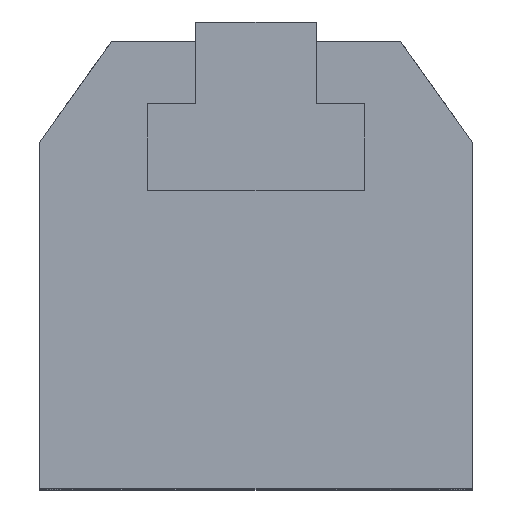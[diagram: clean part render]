
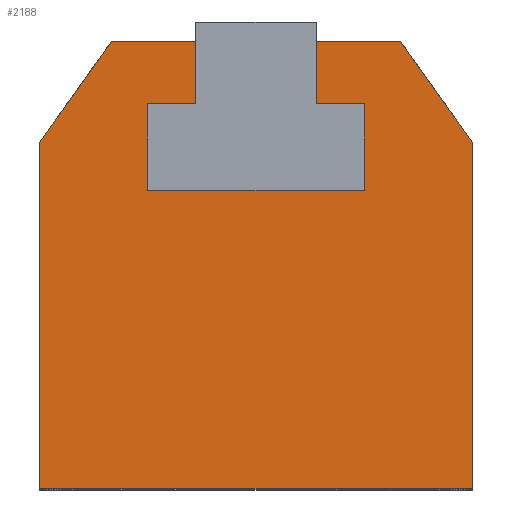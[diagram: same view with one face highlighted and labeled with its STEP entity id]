
A CAD part, top view. The second image highlights one B-rep face of the part: STEP entity #2188.
In plain terms, the highlighted planar face has unit normal (0, 0, 1).
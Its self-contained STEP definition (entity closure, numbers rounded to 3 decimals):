
#33 = VERTEX_POINT ( 'NONE', #6150 ) ;
#50 = ORIENTED_EDGE ( 'NONE', *, *, #4840, .T. ) ;
#123 = LINE ( 'NONE', #1263, #6079 ) ;
#187 = DIRECTION ( 'NONE',  ( 0., 1., 0. ) ) ;
#212 = VECTOR ( 'NONE', #5638, 1000. ) ;
#227 = EDGE_CURVE ( 'NONE', #3416, #3332, #4910, .T. ) ;
#308 = PLANE ( 'NONE',  #4165 ) ;
#397 = FACE_OUTER_BOUND ( 'NONE', #4043, .T. ) ;
#531 = VERTEX_POINT ( 'NONE', #864 ) ;
#573 = CARTESIAN_POINT ( 'NONE',  ( -12.5, 93., 84. ) ) ;
#798 = EDGE_CURVE ( 'NONE', #4283, #7418, #6645, .T. ) ;
#825 = VECTOR ( 'NONE', #6619, 1000. ) ;
#864 = CARTESIAN_POINT ( 'NONE',  ( -12.5, 80., 84. ) ) ;
#904 = EDGE_CURVE ( 'NONE', #4516, #2404, #123, .T. ) ;
#1061 = VECTOR ( 'NONE', #2550, 1000. ) ;
#1090 = VECTOR ( 'NONE', #5746, 1000. ) ;
#1093 = DIRECTION ( 'NONE',  ( -1., 0., 0. ) ) ;
#1099 = CARTESIAN_POINT ( 'NONE',  ( -45., 0., 84. ) ) ;
#1231 = EDGE_CURVE ( 'NONE', #2915, #7152, #7109, .T. ) ;
#1263 = CARTESIAN_POINT ( 'NONE',  ( 45., 72., 84. ) ) ;
#1351 = LINE ( 'NONE', #6640, #825 ) ;
#1552 = CARTESIAN_POINT ( 'NONE',  ( 30., 93., 84. ) ) ;
#1601 = DIRECTION ( 'NONE',  ( 0., 1., 0. ) ) ;
#1656 = ORIENTED_EDGE ( 'NONE', *, *, #798, .T. ) ;
#1673 = LINE ( 'NONE', #2964, #1846 ) ;
#1712 = LINE ( 'NONE', #2339, #6624 ) ;
#1825 = DIRECTION ( 'NONE',  ( -0.581, 0.814, 0. ) ) ;
#1846 = VECTOR ( 'NONE', #7135, 1000. ) ;
#1869 = DIRECTION ( 'NONE',  ( 1., 0., 0. ) ) ;
#1884 = CARTESIAN_POINT ( 'NONE',  ( 22.5, 62., 84. ) ) ;
#1904 = LINE ( 'NONE', #1552, #212 ) ;
#2118 = CARTESIAN_POINT ( 'NONE',  ( 12.5, 80., 84. ) ) ;
#2188 = ADVANCED_FACE ( 'NONE', ( #397 ), #308, .F. ) ;
#2230 = EDGE_CURVE ( 'NONE', #2404, #7152, #1904, .T. ) ;
#2313 = ORIENTED_EDGE ( 'NONE', *, *, #1231, .F. ) ;
#2339 = CARTESIAN_POINT ( 'NONE',  ( -30., 93., 84. ) ) ;
#2346 = EDGE_CURVE ( 'NONE', #3332, #6622, #7414, .T. ) ;
#2404 = VERTEX_POINT ( 'NONE', #5926 ) ;
#2550 = DIRECTION ( 'NONE',  ( 0., 1., 0. ) ) ;
#2752 = ORIENTED_EDGE ( 'NONE', *, *, #7050, .F. ) ;
#2784 = LINE ( 'NONE', #6267, #1090 ) ;
#2815 = CARTESIAN_POINT ( 'NONE',  ( 45., 0., 84. ) ) ;
#2915 = VERTEX_POINT ( 'NONE', #6620 ) ;
#2964 = CARTESIAN_POINT ( 'NONE',  ( -12.5, 80., 84. ) ) ;
#3035 = ORIENTED_EDGE ( 'NONE', *, *, #7178, .F. ) ;
#3160 = CARTESIAN_POINT ( 'NONE',  ( 12.5, 93., 84. ) ) ;
#3332 = VERTEX_POINT ( 'NONE', #4835 ) ;
#3356 = CARTESIAN_POINT ( 'NONE',  ( -45., 0., 84. ) ) ;
#3378 = VECTOR ( 'NONE', #4686, 1000. ) ;
#3416 = VERTEX_POINT ( 'NONE', #6823 ) ;
#3418 = VECTOR ( 'NONE', #187, 1000. ) ;
#3601 = CARTESIAN_POINT ( 'NONE',  ( -22.5, 62., 84. ) ) ;
#3749 = CARTESIAN_POINT ( 'NONE',  ( 22.5, 62., 84. ) ) ;
#3938 = VECTOR ( 'NONE', #4212, 1000. ) ;
#3942 = ORIENTED_EDGE ( 'NONE', *, *, #2230, .T. ) ;
#3955 = LINE ( 'NONE', #6840, #6697 ) ;
#4042 = ORIENTED_EDGE ( 'NONE', *, *, #5600, .F. ) ;
#4043 = EDGE_LOOP ( 'NONE', ( #3942, #2313, #5777, #3035, #5326, #4676, #2752, #4042, #4951, #50, #4328, #1656, #4055, #4308 ) ) ;
#4055 = ORIENTED_EDGE ( 'NONE', *, *, #5679, .T. ) ;
#4112 = DIRECTION ( 'NONE',  ( -0.581, -0.814, 0. ) ) ;
#4165 = AXIS2_PLACEMENT_3D ( 'NONE', #4341, #6256, #1093 ) ;
#4212 = DIRECTION ( 'NONE',  ( 0., -1., 0. ) ) ;
#4283 = VERTEX_POINT ( 'NONE', #1099 ) ;
#4308 = ORIENTED_EDGE ( 'NONE', *, *, #904, .T. ) ;
#4328 = ORIENTED_EDGE ( 'NONE', *, *, #7021, .T. ) ;
#4341 = CARTESIAN_POINT ( 'NONE',  ( 0., 0., 84. ) ) ;
#4516 = VERTEX_POINT ( 'NONE', #6277 ) ;
#4676 = ORIENTED_EDGE ( 'NONE', *, *, #227, .F. ) ;
#4686 = DIRECTION ( 'NONE',  ( 0., -1., 0. ) ) ;
#4726 = VECTOR ( 'NONE', #6356, 1000. ) ;
#4835 = CARTESIAN_POINT ( 'NONE',  ( -22.5, 62., 84. ) ) ;
#4840 = EDGE_CURVE ( 'NONE', #33, #5393, #1712, .T. ) ;
#4910 = LINE ( 'NONE', #5846, #3378 ) ;
#4926 = LINE ( 'NONE', #3749, #1061 ) ;
#4951 = ORIENTED_EDGE ( 'NONE', *, *, #6160, .T. ) ;
#5004 = VECTOR ( 'NONE', #1869, 1000. ) ;
#5050 = EDGE_CURVE ( 'NONE', #6995, #2915, #1351, .T. ) ;
#5326 = ORIENTED_EDGE ( 'NONE', *, *, #2346, .F. ) ;
#5393 = VERTEX_POINT ( 'NONE', #5627 ) ;
#5486 = LINE ( 'NONE', #6513, #3938 ) ;
#5600 = EDGE_CURVE ( 'NONE', #6987, #531, #2784, .T. ) ;
#5627 = CARTESIAN_POINT ( 'NONE',  ( -45., 72., 84. ) ) ;
#5630 = DIRECTION ( 'NONE',  ( -1., 0., 0. ) ) ;
#5638 = DIRECTION ( 'NONE',  ( -1., 0., 0. ) ) ;
#5679 = EDGE_CURVE ( 'NONE', #7418, #4516, #6708, .T. ) ;
#5746 = DIRECTION ( 'NONE',  ( 0., -1., 0. ) ) ;
#5777 = ORIENTED_EDGE ( 'NONE', *, *, #5050, .F. ) ;
#5846 = CARTESIAN_POINT ( 'NONE',  ( -22.5, 80., 84. ) ) ;
#5892 = CARTESIAN_POINT ( 'NONE',  ( 22.5, 80., 84. ) ) ;
#5926 = CARTESIAN_POINT ( 'NONE',  ( 30., 93., 84. ) ) ;
#6079 = VECTOR ( 'NONE', #1825, 1000. ) ;
#6150 = CARTESIAN_POINT ( 'NONE',  ( -30., 93., 84. ) ) ;
#6160 = EDGE_CURVE ( 'NONE', #6987, #33, #3955, .T. ) ;
#6256 = DIRECTION ( 'NONE',  ( 0., 0., -1. ) ) ;
#6267 = CARTESIAN_POINT ( 'NONE',  ( -12.5, 97., 84. ) ) ;
#6277 = CARTESIAN_POINT ( 'NONE',  ( 45., 72., 84. ) ) ;
#6356 = DIRECTION ( 'NONE',  ( 1., 0., 0. ) ) ;
#6513 = CARTESIAN_POINT ( 'NONE',  ( -45., 72., 84. ) ) ;
#6619 = DIRECTION ( 'NONE',  ( -1., 0., 0. ) ) ;
#6620 = CARTESIAN_POINT ( 'NONE',  ( 12.5, 80., 84. ) ) ;
#6622 = VERTEX_POINT ( 'NONE', #1884 ) ;
#6624 = VECTOR ( 'NONE', #4112, 1000. ) ;
#6640 = CARTESIAN_POINT ( 'NONE',  ( 22.5, 80., 84. ) ) ;
#6645 = LINE ( 'NONE', #3356, #4726 ) ;
#6697 = VECTOR ( 'NONE', #5630, 1000. ) ;
#6708 = LINE ( 'NONE', #2815, #3418 ) ;
#6823 = CARTESIAN_POINT ( 'NONE',  ( -22.5, 80., 84. ) ) ;
#6840 = CARTESIAN_POINT ( 'NONE',  ( 30., 93., 84. ) ) ;
#6922 = VECTOR ( 'NONE', #1601, 1000. ) ;
#6947 = CARTESIAN_POINT ( 'NONE',  ( 45., 0., 84. ) ) ;
#6987 = VERTEX_POINT ( 'NONE', #573 ) ;
#6995 = VERTEX_POINT ( 'NONE', #5892 ) ;
#7021 = EDGE_CURVE ( 'NONE', #5393, #4283, #5486, .T. ) ;
#7050 = EDGE_CURVE ( 'NONE', #531, #3416, #1673, .T. ) ;
#7109 = LINE ( 'NONE', #2118, #6922 ) ;
#7135 = DIRECTION ( 'NONE',  ( -1., 0., 0. ) ) ;
#7152 = VERTEX_POINT ( 'NONE', #3160 ) ;
#7178 = EDGE_CURVE ( 'NONE', #6622, #6995, #4926, .T. ) ;
#7414 = LINE ( 'NONE', #3601, #5004 ) ;
#7418 = VERTEX_POINT ( 'NONE', #6947 ) ;
